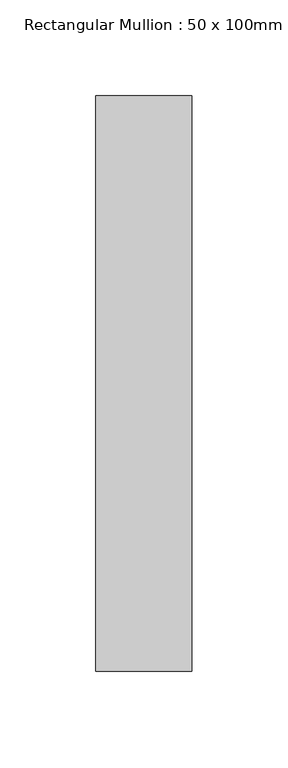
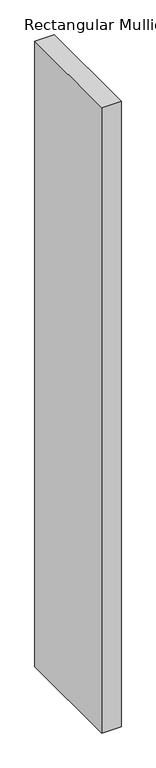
"""IFC4 building model written with IfcOpenShell, lengths in millimetres: member geometry, Rectangular Mullion : 50 x 100mm."""

from ifc_helpers import new_model, si_unit, frame, origin, place, context, project, spatial, polyline, outline, extrude, source, transform, mapped, element, save


def rectangular_mullion_50_x_100mm_c186e3b1(model_context):
    return source(origin(), model_context, "Body", "SweptSolid", [
        extrude(outline(polyline([(25.0, 175.0), (25.0, -125.0), (-25.0, -125.0), (-25.0, 175.0), (25.0, 175.0)])), frame((0.0, 0.0, -1712.84856), z_axis=(0.0, 0.0, 1.0), x_axis=(1.0, 0.0, 0.0)), (0.0, 0.0, 1.0), 1712.84856),
    ])


if __name__ == "__main__":
    model = new_model("IFC4")
    model_context = context("Model", 3, world=origin())
    ifc_project = project(units=[si_unit("LENGTHUNIT", "METRE", prefix="MILLI")], contexts=[model_context])
    site = spatial("IfcSite", under=ifc_project)
    building = spatial("IfcBuilding", under=site)
    placement = place(None, origin())
    rectangular_mullion_50_x_100mm_shape = rectangular_mullion_50_x_100mm_c186e3b1(model_context)
    element("IfcMember", 1, ObjectType="Rectangular Mullion : 50 x 100mm", at=placement, inside=building, context=model_context, shape_type="MappedRepresentation", body=[
        mapped(rectangular_mullion_50_x_100mm_shape, transform((0.0, 0.0, 0.0), x_axis=(1.0, 0.0, 0.0), y_axis=(0.0, 1.0, 0.0), z_axis=(0.0, 0.0, 1.0))),
    ])
    save(model, "model.ifc")
